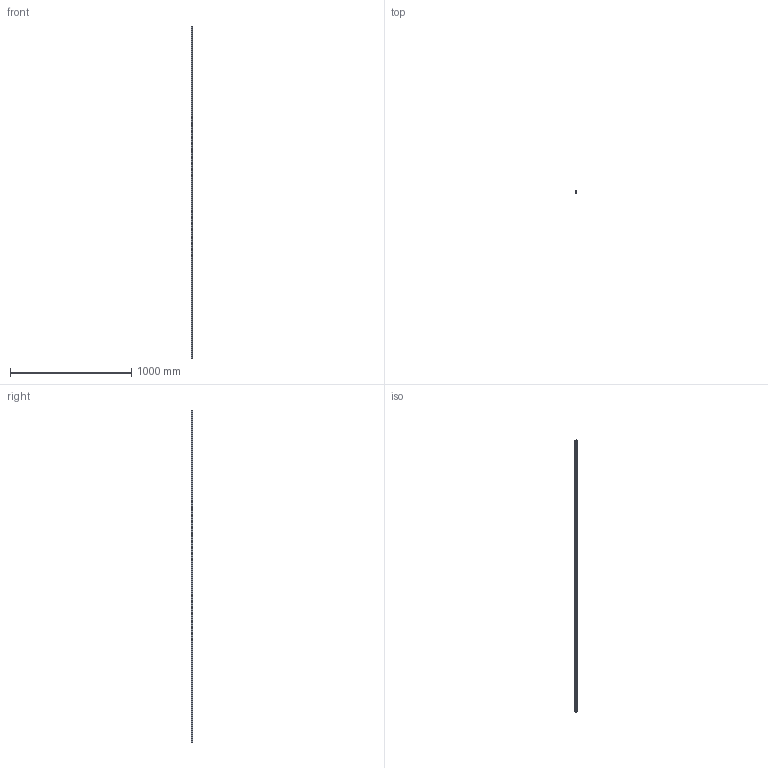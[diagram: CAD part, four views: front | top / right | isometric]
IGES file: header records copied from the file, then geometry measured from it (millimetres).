
Start section: SolidWorks IGES file using analytic representation for surfaces
Global section: file name: C:\Users\IanO\Desktop\L1016_v2\L1016.BL15_v2\L1016.BL15_v2_20190611_IGES\L1016.BL15-2740.igs; native system: SolidWorks 2017; preprocessor: SolidWorks 2017; author: IanO; date: 190612.123331; units: millimetre
Bounding box: 15 x 13 x 2740 mm (x, y, z)
Surface area: 167373.5 mm2 (no closed solid volume)
Topology: 0 solids, 0 shells, 256 faces, 6776 edges, 6776 vertices
Faces by surface type: revolution 188, bspline 68
